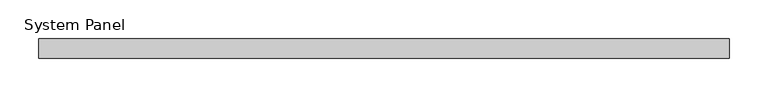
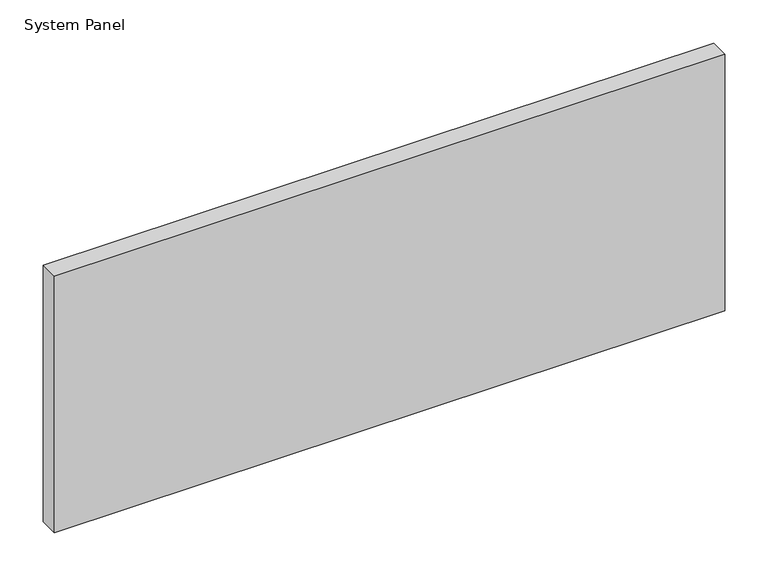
"""IFC4 building model written with IfcOpenShell, lengths in millimetres: plate geometry, System Panel : Glazed - ACMP (AL-1)."""

from ifc_helpers import new_model, si_unit, origin, origin_with_axes, place, context, project, spatial, polyline, outline, extrude, source, transform, mapped, element, save


def system_panel_cceb4459(model_context):
    return source(origin(), model_context, "Body", "SweptSolid", [
        extrude(outline(polyline([(447.6702038, 0.0), (-447.6702038, 0.0), (-447.6702038, 25.4), (447.6702038, 25.4), (447.6702038, 0.0)])), origin_with_axes(), (0.0, 0.0, 1.0), 361.95),
    ])


if __name__ == "__main__":
    model = new_model("IFC4")
    model_context = context("Model", 3, world=origin())
    ifc_project = project(units=[si_unit("LENGTHUNIT", "METRE", prefix="MILLI")], contexts=[model_context])
    site = spatial("IfcSite", under=ifc_project)
    building = spatial("IfcBuilding", under=site)
    placement = place(None, origin())
    system_panel_shape = system_panel_cceb4459(model_context)
    element("IfcPlate", 1, ObjectType="System Panel : Glazed - ACMP (AL-1)", at=placement, inside=building, context=model_context, shape_type="MappedRepresentation", body=[
        mapped(system_panel_shape, transform((0.0, 0.0, 0.0), x_axis=(1.0, 0.0, 0.0), y_axis=(0.0, 1.0, 0.0), z_axis=(0.0, 0.0, 1.0))),
    ])
    save(model, "model.ifc")
